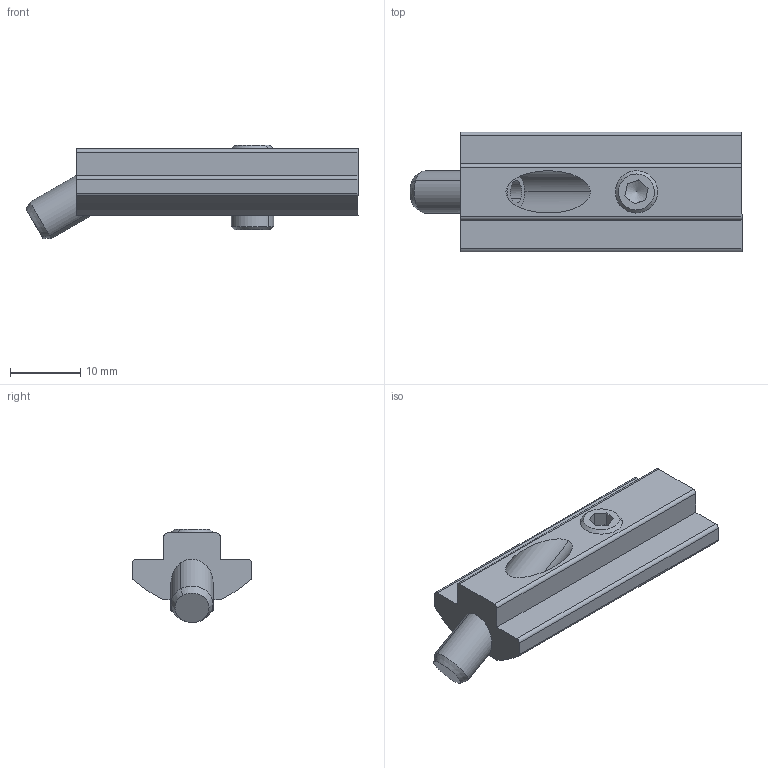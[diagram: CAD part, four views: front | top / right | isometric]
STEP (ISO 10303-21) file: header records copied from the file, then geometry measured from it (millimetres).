
FILE_DESCRIPTION (( 'STEP AP214' ), '1' );
FILE_NAME ('10594_VERS.STEP', '2016-12-01T15:18:15', ( '' ), ( '' ), 'SwSTEP 2.0', 'SolidWorks 2016', '' );
FILE_SCHEMA (( 'AUTOMOTIVE_DESIGN' ));
Length unit declared in the file: millimetre
Products named in the file (4): 10791-01-0000-00_Gewindestift M6x12; 10594-zylinderstift; 10594_grundelement; 10594_VERS
Assembly tree (3 placements, depth 2):
  10594_VERS
    10594_grundelement
    10594-zylinderstift
    10791-01-0000-00_Gewindestift M6x12
Bounding box: 47.19 x 17 x 13.24 mm (x, y, z)
Volume: 4701.1 mm3; surface area: 3169 mm2
Topology: 3 solids, 3 shells, 51 faces, 129 edges, 82 vertices
Faces by surface type: cylinder 20, plane 20, cone 11
Entity records: 1733 total; most frequent: CARTESIAN_POINT 311, DIRECTION 273, ORIENTED_EDGE 250, EDGE_CURVE 125, AXIS2_PLACEMENT_3D 103, VERTEX_POINT 81, VECTOR 67, LINE 67
